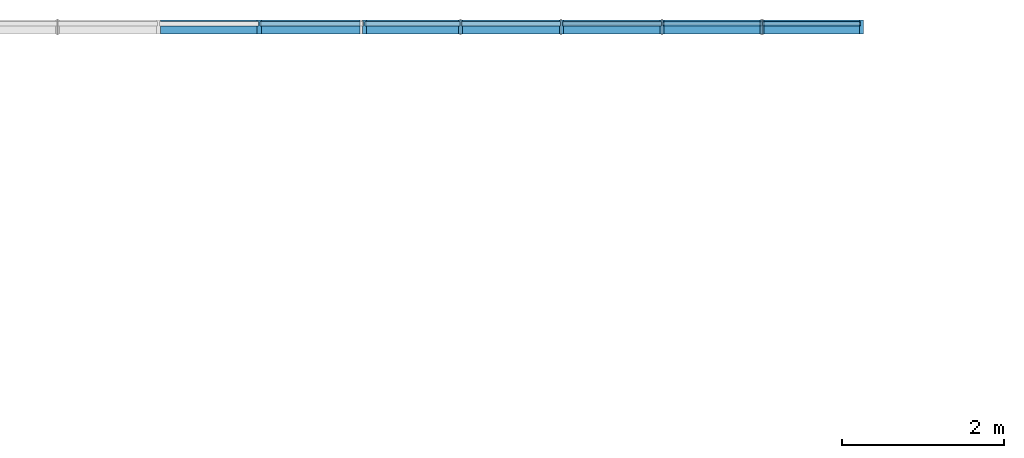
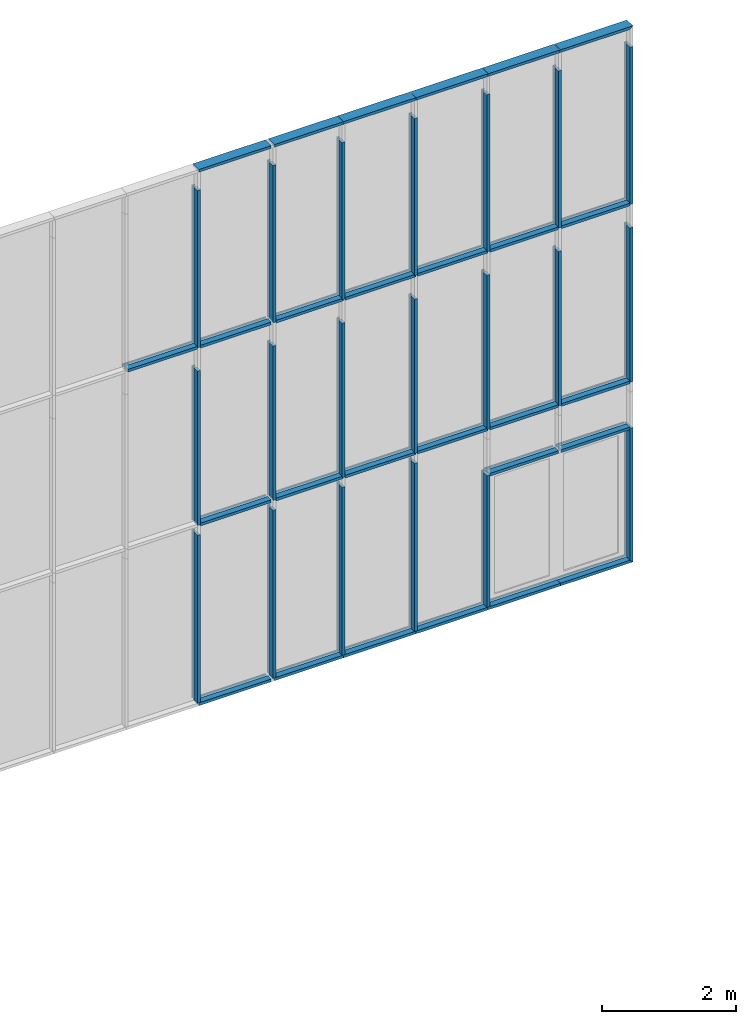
# One storey, part 11 of 387: 47 members, 1 element without a shape of its own.
"""IFC2X3 building model written with IfcOpenShell, lengths in millimetres."""

from ifc_helpers import new_model, entity, si_unit, converted_unit, derived_unit, money_unit, direction, frame, origin_with_axes, place, context, subcontext, project, spatial, polyline, outline, extrude, clip, halfspace, material, type_object, element, aggregate, save


model = new_model("IFC2X3")

# Units and contexts
model_context = context("Model", 3, precision=0.01, world=origin_with_axes(), true_north=direction((0.0, 1.0)))
body_context = subcontext(model_context, "Body", "Model", "MODEL_VIEW")
ifc_project = project(units=[si_unit("LENGTHUNIT", "METRE", prefix="MILLI"), si_unit("AREAUNIT", "SQUARE_METRE"), si_unit("VOLUMEUNIT", "CUBIC_METRE"), converted_unit("PLANEANGLEUNIT", "DEGREE", entity("IfcPlaneAngleMeasure", 0.0174532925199), si_unit("PLANEANGLEUNIT", "RADIAN"), dimensions=[0, 0, 0, 0, 0, 0, 0]), si_unit("SOLIDANGLEUNIT", "STERADIAN"), money_unit("EUR"), converted_unit("TIMEUNIT", "Year", entity("IfcTimeMeasure", 31556926.0), si_unit("TIMEUNIT", "SECOND"), dimensions=[0, 0, 1, 0, 0, 0, 0]), si_unit("MASSUNIT", "GRAM", prefix="KILO"), si_unit("THERMODYNAMICTEMPERATUREUNIT", "DEGREE_CELSIUS"), si_unit("LUMINOUSINTENSITYUNIT", "LUMEN"), si_unit("ENERGYUNIT", "JOULE", prefix="MEGA"), derived_unit("THERMALCONDUCTANCEUNIT", [(si_unit("POWERUNIT", "WATT"), 1), (si_unit("LENGTHUNIT", "METRE"), -1), (si_unit("THERMODYNAMICTEMPERATUREUNIT", "KELVIN"), -1)]), derived_unit("SPECIFICHEATCAPACITYUNIT", [(si_unit("ENERGYUNIT", "JOULE"), 1), (si_unit("MASSUNIT", "GRAM", prefix="KILO"), -1), (si_unit("THERMODYNAMICTEMPERATUREUNIT", "KELVIN"), -1)]), derived_unit("MASSDENSITYUNIT", [(si_unit("MASSUNIT", "GRAM", prefix="KILO"), 1), (si_unit("VOLUMEUNIT", "CUBIC_METRE"), -1)])], contexts=[model_context])

# Site, building, storey
site_placement = place(None, origin_with_axes())
site = spatial("IfcSite", under=ifc_project, at=site_placement, Name="Puškini 31, Narva", CompositionType="ELEMENT")
building_placement = place(site_placement, origin_with_axes())
building = spatial("IfcBuilding", under=site, at=building_placement, Name="Narva Riigigümnaasium", CompositionType="ELEMENT")
storey_placement = place(building_placement, frame((0.0, 0.0, 2640.0), z_axis=(0.0, 0.0, 1.0), x_axis=(1.0, 0.0, 0.0)))
storey = spatial("IfcBuildingStorey", under=building, at=storey_placement, Name="2.korrus +2.64", CompositionType="ELEMENT", Elevation=2640.0)

# Curtain wall, members
curtain_wall_type = type_object("IfcCurtainWallType", Name="Curtain Wall Type", PredefinedType="NOTDEFINED")
curtain_wall_placement = place(storey_placement, frame((50893.5555569, 254360.0, -2029.99998222), z_axis=(0.0, 0.0, 1.0), x_axis=(1.0, 0.0, 0.0)))
curtain_wall = element("IfcCurtainWall", 1, at=curtain_wall_placement, inside=storey, type_object=curtain_wall_type, Name="G-KLF-06")
ifc_material = material(Name="ET-04_Alumiinium")
member_type_1 = type_object("IfcMemberType", Name="Mullion Frame 50 x 176", PredefinedType="MULLION")
member_1_placement = place(curtain_wall_placement, frame((-3268.55557739, 0.0, 6526.66667876), z_axis=(0.0, 0.0, 1.0), x_axis=(1.0, 0.0, 0.0)))
member_1 = element("IfcMember", 2, at=member_1_placement, type_object=member_type_1, material=ifc_material, Name="klaasfassaadi raam", ObjectType="MULLION", context=body_context, shape_type="SweptSolid", body=[
    extrude(outline(polyline([(-10.0, -29.0), (-25.0, -29.0), (-25.0, -130.0), (25.0, -130.0), (25.0, -29.0), (10.0, -29.0), (10.0, 29.0), (25.0, 29.0), (25.0, 46.0), (-25.0, 46.0), (-25.0, 29.0), (-10.0, 29.0), (-10.0, -29.0)])), frame((0.0, 0.0, -1.08266284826e-06), z_axis=(0.0, 0.0, 1.0), x_axis=(1.0, 0.0, 0.0)), (0.0, 0.0, 1.0), 2863.33330005),
])
member_2_placement = place(curtain_wall_placement, frame((-3268.55555892, 0.0, 3288.33334081), z_axis=(0.0, 0.0, 1.0), x_axis=(1.0, 0.0, 0.0)))
member_2 = element("IfcMember", 3, at=member_2_placement, type_object=member_type_1, material=ifc_material, Name="klaasfassaadi raam", ObjectType="MULLION", context=body_context, shape_type="SweptSolid", body=[
    extrude(outline(polyline([(-10.0, -29.0), (-25.0, -29.0), (-25.0, -130.0), (25.0, -130.0), (25.0, -29.0), (10.0, -29.0), (10.0, 29.0), (25.0, 29.0), (25.0, 46.0), (-25.0, 46.0), (-25.0, 29.0), (-10.0, 29.0), (-10.0, -29.0)])), frame((0.0, 0.0, -9.10186148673e-07), z_axis=(0.0, 0.0, 1.0), x_axis=(1.0, 0.0, 0.0)), (0.0, 0.0, 1.0), 2811.66663707),
])
member_3_placement = place(curtain_wall_placement, frame((-3268.55555543, 0.0, 0.0), z_axis=(-3.20747446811e-09, 0.0, 1.0), x_axis=(1.0, 0.0, 3.20747446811e-09)))
member_3 = element("IfcMember", 4, at=member_3_placement, type_object=member_type_1, material=ifc_material, Name="klaasfassaadi raam", ObjectType="MULLION", context=body_context, shape_type="SweptSolid", body=[
    extrude(outline(polyline([(-10.0, -29.0), (-25.0, -29.0), (-25.0, -130.0), (25.0, -130.0), (25.0, -29.0), (10.0, -29.0), (10.0, 29.0), (25.0, 29.0), (25.0, 46.0), (-25.0, 46.0), (-25.0, 29.0), (-10.0, 29.0), (-10.0, -29.0)])), frame((0.0, 0.0, 49.9999998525), z_axis=(0.0, 0.0, 1.0), x_axis=(1.0, 0.0, -3.20747446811e-09)), (0.0, 0.0, 1.0), 3059.99997702),
])
member_4_placement = place(curtain_wall_placement, frame((-2076.88887256, 0.0, 0.0), z_axis=(0.0, 0.0, 1.0), x_axis=(1.0, 0.0, 0.0)))
member_4 = element("IfcMember", 5, at=member_4_placement, type_object=member_type_1, material=ifc_material, Name="klaasfassaadi raam", ObjectType="MULLION", context=body_context, shape_type="SweptSolid", body=[
    extrude(outline(polyline([(-10.0, -29.0), (-25.0, -29.0), (-25.0, -130.0), (25.0, -130.0), (25.0, -29.0), (10.0, -29.0), (10.0, 29.0), (25.0, 29.0), (25.0, 46.0), (-25.0, 46.0), (-25.0, 29.0), (-10.0, 29.0), (-10.0, -29.0)])), frame((0.0, 0.0, 49.9999998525), z_axis=(0.0, 0.0, 1.0), x_axis=(1.0, 0.0, 0.0)), (0.0, 0.0, 1.0), 3059.99997702),
])
member_5_placement = place(curtain_wall_placement, frame((-830.222212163, 0.0, 0.0), z_axis=(0.0, 0.0, 1.0), x_axis=(1.0, 0.0, 0.0)))
member_5 = element("IfcMember", 6, at=member_5_placement, type_object=member_type_1, material=ifc_material, Name="klaasfassaadi raam", ObjectType="MULLION", context=body_context, shape_type="SweptSolid", body=[
    extrude(outline(polyline([(-10.0, -29.0), (-25.0, -29.0), (-25.0, -130.0), (25.0, -130.0), (25.0, -29.0), (10.0, -29.0), (10.0, 29.0), (25.0, 29.0), (25.0, 46.0), (-25.0, 46.0), (-25.0, 29.0), (-10.0, 29.0), (-10.0, -29.0)])), frame((0.0, 0.0, 49.9999998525), z_axis=(0.0, 0.0, 1.0), x_axis=(1.0, 0.0, 0.0)), (0.0, 0.0, 1.0), 3059.99997702),
])
member_6_placement = place(curtain_wall_placement, frame((-4569.55555591, 0.0, 0.0), z_axis=(0.0, 0.0, 1.0), x_axis=(1.0, 0.0, 0.0)))
member_6 = element("IfcMember", 7, at=member_6_placement, type_object=member_type_1, material=ifc_material, Name="klaasfassaadi raam", ObjectType="MULLION", context=body_context, shape_type="SweptSolid", body=[
    extrude(outline(polyline([(-10.0, -29.0), (-25.0, -29.0), (-25.0, -130.0), (25.0, -130.0), (25.0, -29.0), (10.0, -29.0), (10.0, 29.0), (25.0, 29.0), (25.0, 46.0), (-25.0, 46.0), (-25.0, 29.0), (-10.0, 29.0), (-10.0, -29.0)])), frame((0.0, 0.0, 49.9999998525), z_axis=(0.0, 0.0, 1.0), x_axis=(1.0, 0.0, 0.0)), (0.0, 0.0, 1.0), 3059.99997702),
])
member_7_placement = place(curtain_wall_placement, frame((416.444428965, 0.0, 0.0), z_axis=(0.0, 0.0, 1.0), x_axis=(1.0, 0.0, 0.0)))
member_7 = element("IfcMember", 8, at=member_7_placement, type_object=member_type_1, material=ifc_material, Name="klaasfassaadi raam", ObjectType="MULLION", context=body_context, shape_type="SweptSolid", body=[
    extrude(outline(polyline([(-10.0, -29.0), (-25.0, -29.0), (-25.0, -130.0), (25.0, -130.0), (25.0, -29.0), (10.0, -29.0), (10.0, 29.0), (25.0, 29.0), (25.0, 46.0), (-25.0, 46.0), (-25.0, 29.0), (-10.0, 29.0), (-10.0, -29.0)])), frame((0.0, 0.0, 50.0), z_axis=(0.0, 0.0, 1.0), x_axis=(1.0, 0.0, 0.0)), (0.0, 0.0, 1.0), 2399.99999884),
])
member_8_placement = place(curtain_wall_placement, frame((-830.222216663, 0.0, 6526.66667876), z_axis=(0.0, 0.0, 1.0), x_axis=(1.0, 0.0, 0.0)))
member_8 = element("IfcMember", 9, at=member_8_placement, type_object=member_type_1, material=ifc_material, Name="klaasfassaadi raam", ObjectType="MULLION", context=body_context, shape_type="SweptSolid", body=[
    extrude(outline(polyline([(-10.0, -29.0), (-25.0, -29.0), (-25.0, -130.0), (25.0, -130.0), (25.0, -29.0), (10.0, -29.0), (10.0, 29.0), (25.0, 29.0), (25.0, 46.0), (-25.0, 46.0), (-25.0, 29.0), (-10.0, 29.0), (-10.0, -29.0)])), frame((0.0, 0.0, -1.08266284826e-06), z_axis=(0.0, 0.0, 1.0), x_axis=(1.0, 0.0, 0.0)), (0.0, 0.0, 1.0), 2863.33330005),
])
member_9_placement = place(curtain_wall_placement, frame((-830.222212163, 0.0, 3288.33334081), z_axis=(9.95296012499e-09, 0.0, 1.0), x_axis=(1.0, 0.0, -9.95296012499e-09)))
member_9 = element("IfcMember", 10, at=member_9_placement, type_object=member_type_1, material=ifc_material, Name="klaasfassaadi raam", ObjectType="MULLION", context=body_context, shape_type="SweptSolid", body=[
    extrude(outline(polyline([(-10.0, -29.0), (-25.0, -29.0), (-25.0, -130.0), (25.0, -130.0), (25.0, -29.0), (10.0, -29.0), (10.0, 29.0), (25.0, 29.0), (25.0, 46.0), (-25.0, 46.0), (-25.0, 29.0), (-10.0, 29.0), (-10.0, -29.0)])), frame((0.0, 0.0, -9.10186148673e-07), z_axis=(0.0, 0.0, 1.0), x_axis=(1.0, 0.0, 9.95296012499e-09)), (0.0, 0.0, 1.0), 2811.66663707),
])
member_10_placement = place(curtain_wall_placement, frame((-2076.88887256, 0.0, 3288.33334081), z_axis=(5.55415384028e-09, 0.0, 1.0), x_axis=(1.0, 0.0, -5.55415384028e-09)))
member_10 = element("IfcMember", 11, at=member_10_placement, type_object=member_type_1, material=ifc_material, Name="klaasfassaadi raam", ObjectType="MULLION", context=body_context, shape_type="SweptSolid", body=[
    extrude(outline(polyline([(-10.0, -29.0), (-25.0, -29.0), (-25.0, -130.0), (25.0, -130.0), (25.0, -29.0), (10.0, -29.0), (10.0, 29.0), (25.0, 29.0), (25.0, 46.0), (-25.0, 46.0), (-25.0, 29.0), (-10.0, 29.0), (-10.0, -29.0)])), frame((0.0, 0.0, -9.10186592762e-07), z_axis=(0.0, 0.0, 1.0), x_axis=(1.0, 0.0, 5.55415384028e-09)), (0.0, 0.0, 1.0), 2811.66663707),
])
member_11_placement = place(curtain_wall_placement, frame((-2076.88885694, 0.0, 6526.66667876), z_axis=(0.0, 0.0, 1.0), x_axis=(1.0, 0.0, 0.0)))
member_11 = element("IfcMember", 12, at=member_11_placement, type_object=member_type_1, material=ifc_material, Name="klaasfassaadi raam", ObjectType="MULLION", context=body_context, shape_type="SweptSolid", body=[
    extrude(outline(polyline([(-10.0, -29.0), (-25.0, -29.0), (-25.0, -130.0), (25.0, -130.0), (25.0, -29.0), (10.0, -29.0), (10.0, 29.0), (25.0, 29.0), (25.0, 46.0), (-25.0, 46.0), (-25.0, 29.0), (-10.0, 29.0), (-10.0, -29.0)])), frame((0.0, 0.0, -1.08266284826e-06), z_axis=(0.0, 0.0, 1.0), x_axis=(1.0, 0.0, 0.0)), (0.0, 0.0, 1.0), 2863.33330005),
])
member_12_placement = place(curtain_wall_placement, frame((-4569.55555591, 0.0, 6526.66667876), z_axis=(0.0, 0.0, 1.0), x_axis=(1.0, 0.0, 0.0)))
member_12 = element("IfcMember", 13, at=member_12_placement, type_object=member_type_1, material=ifc_material, Name="klaasfassaadi raam", ObjectType="MULLION", context=body_context, shape_type="SweptSolid", body=[
    extrude(outline(polyline([(-10.0, -29.0), (-25.0, -29.0), (-25.0, -130.0), (25.0, -130.0), (25.0, -29.0), (10.0, -29.0), (10.0, 29.0), (25.0, 29.0), (25.0, 46.0), (-25.0, 46.0), (-25.0, 29.0), (-10.0, 29.0), (-10.0, -29.0)])), frame((0.0, 0.0, -1.08266284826e-06), z_axis=(0.0, 0.0, 1.0), x_axis=(1.0, 0.0, 0.0)), (0.0, 0.0, 1.0), 2863.33330005),
])
member_13_placement = place(curtain_wall_placement, frame((-4569.55555591, 0.0, 3288.33334081), z_axis=(0.0, 0.0, 1.0), x_axis=(1.0, 0.0, 0.0)))
member_13 = element("IfcMember", 14, at=member_13_placement, type_object=member_type_1, material=ifc_material, Name="klaasfassaadi raam", ObjectType="MULLION", context=body_context, shape_type="SweptSolid", body=[
    extrude(outline(polyline([(-10.0, -29.0), (-25.0, -29.0), (-25.0, -130.0), (25.0, -130.0), (25.0, -29.0), (10.0, -29.0), (10.0, 29.0), (25.0, 29.0), (25.0, 46.0), (-25.0, 46.0), (-25.0, 29.0), (-10.0, 29.0), (-10.0, -29.0)])), frame((0.0, 0.0, -9.10186148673e-07), z_axis=(0.0, 0.0, 1.0), x_axis=(1.0, 0.0, 0.0)), (0.0, 0.0, 1.0), 2811.66663707),
])
member_14_placement = place(curtain_wall_placement, frame((416.444440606, 0.0, 3288.33334081), z_axis=(-6.04173442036e-09, 0.0, 1.0), x_axis=(1.0, 0.0, 6.04173442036e-09)))
member_14 = element("IfcMember", 15, at=member_14_placement, type_object=member_type_1, material=ifc_material, Name="klaasfassaadi raam", ObjectType="MULLION", context=body_context, shape_type="SweptSolid", body=[
    extrude(outline(polyline([(-10.0, -29.0), (-25.0, -29.0), (-25.0, -130.0), (25.0, -130.0), (25.0, -29.0), (10.0, -29.0), (10.0, 29.0), (25.0, 29.0), (25.0, 46.0), (-25.0, 46.0), (-25.0, 29.0), (-10.0, 29.0), (-10.0, -29.0)])), frame((0.0, 0.0, -9.10186592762e-07), z_axis=(0.0, 0.0, 1.0), x_axis=(1.0, 0.0, -6.04173442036e-09)), (0.0, 0.0, 1.0), 2811.66663707),
])
member_15_placement = place(curtain_wall_placement, frame((416.444423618, 0.0, 6526.66667873), z_axis=(0.0, 0.0, 1.0), x_axis=(1.0, 0.0, 0.0)))
member_15 = element("IfcMember", 16, at=member_15_placement, type_object=member_type_1, material=ifc_material, Name="klaasfassaadi raam", ObjectType="MULLION", context=body_context, shape_type="SweptSolid", body=[
    extrude(outline(polyline([(-10.0, -29.0), (-25.0, -29.0), (-25.0, -130.0), (25.0, -130.0), (25.0, -29.0), (10.0, -29.0), (10.0, 29.0), (25.0, 29.0), (25.0, 46.0), (-25.0, 46.0), (-25.0, 29.0), (-10.0, 29.0), (-10.0, -29.0)])), frame((0.0, 0.0, -1.08266284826e-06), z_axis=(0.0, 0.0, 1.0), x_axis=(1.0, 0.0, 0.0)), (0.0, 0.0, 1.0), 2863.33330005),
])
member_16_placement = place(curtain_wall_placement, frame((1648.9444345, 0.0, 3288.33333883), z_axis=(7.41968359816e-10, 0.0, 1.0), x_axis=(1.0, 0.0, -7.41968359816e-10)))
member_16 = element("IfcMember", 17, at=member_16_placement, type_object=member_type_1, material=ifc_material, Name="klaasfassaadi raam", ObjectType="MULLION", context=body_context, shape_type="SweptSolid", body=[
    extrude(outline(polyline([(-10.0, -29.0), (-25.0, -29.0), (-25.0, -130.0), (25.0, -130.0), (25.0, -29.0), (10.0, -29.0), (10.0, 29.0), (25.0, 29.0), (25.0, 46.0), (-25.0, 46.0), (-25.0, 29.0), (-10.0, 29.0), (-10.0, -29.0)])), frame((0.0, 0.0, -9.10186592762e-07), z_axis=(0.0, 0.0, 1.0), x_axis=(1.0, 0.0, 7.41968359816e-10)), (0.0, 0.0, 1.0), 2811.66663707),
])
member_17_placement = place(curtain_wall_placement, frame((1648.94443658, 0.0, 6526.66665832), z_axis=(0.0, 0.0, 1.0), x_axis=(1.0, 0.0, 0.0)))
member_17 = element("IfcMember", 18, at=member_17_placement, type_object=member_type_1, material=ifc_material, Name="klaasfassaadi raam", ObjectType="MULLION", context=body_context, shape_type="SweptSolid", body=[
    extrude(outline(polyline([(-10.0, -29.0), (-25.0, -29.0), (-25.0, -130.0), (25.0, -130.0), (25.0, -29.0), (10.0, -29.0), (10.0, 29.0), (25.0, 29.0), (25.0, 46.0), (-25.0, 46.0), (-25.0, 29.0), (-10.0, 29.0), (-10.0, -29.0)])), frame((0.0, 0.0, -1.08266284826e-06), z_axis=(0.0, 0.0, 1.0), x_axis=(1.0, 0.0, 0.0)), (0.0, 0.0, 1.0), 2863.33330005),
])
member_type_2 = type_object("IfcMemberType", Name="Boundary Frame 50 x 176", PredefinedType="MULLION")
member_18_placement = place(curtain_wall_placement, frame((2906.44444492, 0.0, 0.0), z_axis=(0.0, 0.0, 1.0), x_axis=(1.0, 0.0, 0.0)))
member_18 = element("IfcMember", 19, at=member_18_placement, type_object=member_type_2, material=ifc_material, Name="klaasfassaadi raam", ObjectType="MULLION", context=body_context, shape_type="Clipping", body=[
    clip(extrude(outline(polyline([(-35.0, -29.0), (-50.0, -29.0), (-50.0, -130.0), (0.0, -130.0), (0.0, 46.0), (-50.0, 46.0), (-50.0, 29.0), (-35.0, 29.0), (-35.0, -29.0)])), origin_with_axes(), (0.0, 0.0, 1.0), 2449.9999984), halfspace(frame((0.0, 0.0, 0.0), z_axis=(0.707106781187, 0.0, 0.707106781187), x_axis=(0.0, -1.0, 0.0)), True)),
])
member_19_placement = place(curtain_wall_placement, frame((-3323.55555578, 0.0, 0.0), z_axis=(-1.0, 0.0, 0.0), x_axis=(0.0, 0.0, 1.0)))
member_19 = element("IfcMember", 20, at=member_19_placement, type_object=member_type_2, material=ifc_material, Name="klaasfassaadi raam", ObjectType="MULLION", context=body_context, shape_type="SweptSolid", body=[
    extrude(outline(polyline([(-29.0, -35.0), (29.0, -35.0), (29.0, -50.0), (46.0, -50.0), (46.0, 0.0), (-130.0, 0.0), (-130.0, -50.0), (-29.0, -50.0), (-29.0, -35.0)])), frame((0.0, 0.0, 0.0), z_axis=(0.0, 0.0, 1.0), x_axis=(0.0, 1.0, 0.0)), (0.0, 0.0, 1.0), 1246.00000014),
])
member_20_placement = place(curtain_wall_placement, frame((-831.555555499, 0.0, 0.0), z_axis=(-1.0, 0.0, 0.0), x_axis=(0.0, 0.0, 1.0)))
member_20 = element("IfcMember", 21, at=member_20_placement, type_object=member_type_2, material=ifc_material, Name="klaasfassaadi raam", ObjectType="MULLION", context=body_context, shape_type="SweptSolid", body=[
    extrude(outline(polyline([(-29.0, -35.0), (29.0, -35.0), (29.0, -50.0), (46.0, -50.0), (46.0, 0.0), (-130.0, 0.0), (-130.0, -50.0), (-29.0, -50.0), (-29.0, -35.0)])), frame((0.0, 0.0, 0.0), z_axis=(0.0, 0.0, 1.0), x_axis=(0.0, 1.0, 0.0)), (0.0, 0.0, 1.0), 1245.33331706),
])
member_21_placement = place(curtain_wall_placement, frame((414.444444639, 0.0, 0.0), z_axis=(-1.0, 0.0, 0.0), x_axis=(0.0, 0.0, 1.0)))
member_21 = element("IfcMember", 22, at=member_21_placement, type_object=member_type_2, material=ifc_material, Name="klaasfassaadi raam", ObjectType="MULLION", context=body_context, shape_type="SweptSolid", body=[
    extrude(outline(polyline([(-29.0, -35.0), (29.0, -35.0), (29.0, -50.0), (46.0, -50.0), (46.0, 0.0), (-130.0, 0.0), (-130.0, -50.0), (-29.0, -50.0), (-29.0, -35.0)])), frame((0.0, 0.0, 0.0), z_axis=(0.0, 0.0, 1.0), x_axis=(0.0, 1.0, 0.0)), (0.0, 0.0, 1.0), 1244.6666568),
])
member_22_placement = place(curtain_wall_placement, frame((1660.44444478, 0.0, 0.0), z_axis=(-1.0, 0.0, 0.0), x_axis=(0.0, 0.0, 1.0)))
member_22 = element("IfcMember", 23, at=member_22_placement, type_object=member_type_2, material=ifc_material, Name="klaasfassaadi raam", ObjectType="MULLION", context=body_context, shape_type="SweptSolid", body=[
    extrude(outline(polyline([(-29.0, -35.0), (29.0, -35.0), (29.0, -50.0), (46.0, -50.0), (46.0, 0.0), (-130.0, 0.0), (-130.0, -50.0), (-29.0, -50.0), (-29.0, -35.0)])), frame((0.0, 0.0, 0.0), z_axis=(0.0, 0.0, 1.0), x_axis=(0.0, 1.0, 0.0)), (0.0, 0.0, 1.0), 1243.99999337),
])
member_23_placement = place(curtain_wall_placement, frame((2906.44444492, 0.0, 0.0), z_axis=(-1.0, 0.0, 0.0), x_axis=(0.0, 0.0, 1.0)))
member_23 = element("IfcMember", 24, at=member_23_placement, type_object=member_type_2, material=ifc_material, Name="klaasfassaadi raam", ObjectType="MULLION", context=body_context, shape_type="Clipping", body=[
    clip(extrude(outline(polyline([(-29.0, -35.0), (29.0, -35.0), (29.0, -50.0), (46.0, -50.0), (46.0, 0.0), (-130.0, 0.0), (-130.0, -50.0), (-29.0, -50.0), (-29.0, -35.0)])), frame((0.0, 0.0, 0.0), z_axis=(0.0, 0.0, 1.0), x_axis=(0.0, 1.0, 0.0)), (0.0, 0.0, 1.0), 1246.00000014), halfspace(frame((0.0, 0.0, 0.0), z_axis=(-0.707106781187, 0.0, 0.707106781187), x_axis=(0.0, -1.0, 0.0)), True)),
])
member_24_placement = place(curtain_wall_placement, frame((-2077.55555564, 0.0, 0.0), z_axis=(-1.0, 0.0, 0.0), x_axis=(0.0, 0.0, 1.0)))
member_24 = element("IfcMember", 25, at=member_24_placement, type_object=member_type_2, material=ifc_material, Name="klaasfassaadi raam", ObjectType="MULLION", context=body_context, shape_type="SweptSolid", body=[
    extrude(outline(polyline([(-29.0, -35.0), (29.0, -35.0), (29.0, -50.0), (46.0, -50.0), (46.0, 0.0), (-130.0, 0.0), (-130.0, -50.0), (-29.0, -50.0), (-29.0, -35.0)])), frame((0.0, 0.0, 0.0), z_axis=(0.0, 0.0, 1.0), x_axis=(0.0, 1.0, 0.0)), (0.0, 0.0, 1.0), 1190.9999998),
])
member_25_placement = place(curtain_wall_placement, frame((2906.44444492, 0.0, 6526.66665813), z_axis=(0.0, 0.0, 1.0), x_axis=(1.0, 0.0, 0.0)))
member_25 = element("IfcMember", 26, at=member_25_placement, type_object=member_type_2, material=ifc_material, Name="klaasfassaadi raam", ObjectType="MULLION", context=body_context, shape_type="SweptSolid", body=[
    extrude(outline(polyline([(-35.0, -29.0), (-50.0, -29.0), (-50.0, -130.0), (0.0, -130.0), (0.0, 46.0), (-50.0, 46.0), (-50.0, 29.0), (-35.0, 29.0), (-35.0, -29.0)])), origin_with_axes(), (0.0, 0.0, 1.0), 2863.33331775),
])
member_26_placement = place(curtain_wall_placement, frame((2906.44444492, 0.0, 3288.33333881), z_axis=(0.0, 0.0, 1.0), x_axis=(1.0, 0.0, 0.0)))
member_26 = element("IfcMember", 27, at=member_26_placement, type_object=member_type_2, material=ifc_material, Name="klaasfassaadi raam", ObjectType="MULLION", context=body_context, shape_type="SweptSolid", body=[
    extrude(outline(polyline([(-35.0, -29.0), (-50.0, -29.0), (-50.0, -130.0), (0.0, -130.0), (0.0, 46.0), (-50.0, 46.0), (-50.0, 29.0), (-35.0, 29.0), (-35.0, -29.0)])), origin_with_axes(), (0.0, 0.0, 1.0), 2811.66663707),
])
member_27_placement = place(curtain_wall_placement, frame((1660.44444478, 0.0, 9765.00000442), z_axis=(1.0, 0.0, 0.0), x_axis=(0.0, 0.0, -1.0)))
member_27 = element("IfcMember", 28, at=member_27_placement, type_object=member_type_2, material=ifc_material, Name="klaasfassaadi raam", ObjectType="MULLION", context=body_context, shape_type="Clipping", body=[
    clip(extrude(outline(polyline([(29.0, 35.0), (-29.0, 35.0), (-29.0, 50.0), (-46.0, 50.0), (-46.0, 0.0), (130.0, 0.0), (130.0, 50.0), (29.0, 50.0), (29.0, 35.0)])), frame((0.0, 0.0, 0.0), z_axis=(0.0, 0.0, 1.0), x_axis=(0.0, -1.0, 0.0)), (0.0, 0.0, 1.0), 1246.00000014), halfspace(frame((623.000000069, 0.0, 623.000000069), z_axis=(-0.707106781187, 0.0, -0.707106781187), x_axis=(0.0, 1.0, 0.0)), True)),
])
member_28_placement = place(curtain_wall_placement, frame((-830.222213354, 0.0, 9765.00000442), z_axis=(1.0, 0.0, 0.0), x_axis=(0.0, 0.0, -1.0)))
member_28 = element("IfcMember", 29, at=member_28_placement, type_object=member_type_2, material=ifc_material, Name="klaasfassaadi raam", ObjectType="MULLION", context=body_context, shape_type="SweptSolid", body=[
    extrude(outline(polyline([(29.0, 35.0), (-29.0, 35.0), (-29.0, 50.0), (-46.0, 50.0), (-46.0, 0.0), (130.0, 0.0), (130.0, 50.0), (29.0, 50.0), (29.0, 35.0)])), frame((0.0, 0.0, 0.0), z_axis=(0.0, 0.0, 1.0), x_axis=(0.0, -1.0, 0.0)), (0.0, 0.0, 1.0), 1244.6666568),
])
member_29_placement = place(curtain_wall_placement, frame((-2076.88887515, 0.0, 9765.00000442), z_axis=(1.0, 0.0, 0.0), x_axis=(0.0, 0.0, -1.0)))
member_29 = element("IfcMember", 30, at=member_29_placement, type_object=member_type_2, material=ifc_material, Name="klaasfassaadi raam", ObjectType="MULLION", context=body_context, shape_type="SweptSolid", body=[
    extrude(outline(polyline([(29.0, 35.0), (-29.0, 35.0), (-29.0, 50.0), (-46.0, 50.0), (-46.0, 0.0), (130.0, 0.0), (130.0, 50.0), (29.0, 50.0), (29.0, 35.0)])), frame((0.0, 0.0, 0.0), z_axis=(0.0, 0.0, 1.0), x_axis=(0.0, -1.0, 0.0)), (0.0, 0.0, 1.0), 1245.33331706),
])
member_30_placement = place(curtain_wall_placement, frame((-3268.55554971, 0.0, 9765.00000442), z_axis=(1.0, 0.0, 0.0), x_axis=(0.0, 0.0, -1.0)))
member_30 = element("IfcMember", 31, at=member_30_placement, type_object=member_type_2, material=ifc_material, Name="klaasfassaadi raam", ObjectType="MULLION", context=body_context, shape_type="SweptSolid", body=[
    extrude(outline(polyline([(29.0, 35.0), (-29.0, 35.0), (-29.0, 50.0), (-46.0, 50.0), (-46.0, 0.0), (130.0, 0.0), (130.0, 50.0), (29.0, 50.0), (29.0, 35.0)])), frame((0.0, 0.0, 0.0), z_axis=(0.0, 0.0, 1.0), x_axis=(0.0, -1.0, 0.0)), (0.0, 0.0, 1.0), 1190.9999998),
])
member_31_placement = place(curtain_wall_placement, frame((-4569.55555591, 0.0, 9765.00000442), z_axis=(1.0, 0.0, 0.0), x_axis=(0.0, 0.0, -1.0)))
member_31 = element("IfcMember", 32, at=member_31_placement, type_object=member_type_2, material=ifc_material, Name="klaasfassaadi raam", ObjectType="MULLION", context=body_context, shape_type="SweptSolid", body=[
    extrude(outline(polyline([(29.0, 35.0), (-29.0, 35.0), (-29.0, 50.0), (-46.0, 50.0), (-46.0, 0.0), (130.0, 0.0), (130.0, 50.0), (29.0, 50.0), (29.0, 35.0)])), frame((0.0, 0.0, 0.0), z_axis=(0.0, 0.0, 1.0), x_axis=(0.0, -1.0, 0.0)), (0.0, 0.0, 1.0), 1246.00000014),
])
member_32_placement = place(curtain_wall_placement, frame((416.444423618, 0.0, 9765.00000442), z_axis=(1.0, 0.0, 0.0), x_axis=(0.0, 0.0, -1.0)))
member_32 = element("IfcMember", 33, at=member_32_placement, type_object=member_type_2, material=ifc_material, Name="klaasfassaadi raam", ObjectType="MULLION", context=body_context, shape_type="SweptSolid", body=[
    extrude(outline(polyline([(29.0, 35.0), (-29.0, 35.0), (-29.0, 50.0), (-46.0, 50.0), (-46.0, 0.0), (130.0, 0.0), (130.0, 50.0), (29.0, 50.0), (29.0, 35.0)])), frame((0.0, 0.0, 0.0), z_axis=(0.0, 0.0, 1.0), x_axis=(0.0, -1.0, 0.0)), (0.0, 0.0, 1.0), 1232.50001952),
])
member_type_3 = type_object("IfcMemberType", Name="Transom Frame 50 x 176", PredefinedType="MULLION")
member_33_placement = place(curtain_wall_placement, frame((-2077.55555564, 0.0, 6526.66667876), z_axis=(-1.0, 0.0, 0.0), x_axis=(0.0, 0.0, 1.0)))
member_33 = element("IfcMember", 34, at=member_33_placement, type_object=member_type_3, material=ifc_material, Name="klaasfassaadi raam", ObjectType="MULLION", context=body_context, shape_type="SweptSolid", body=[
    extrude(outline(polyline([(-29.0, 10.0), (-29.0, 25.0), (-130.0, 25.0), (-130.0, -25.0), (-29.0, -25.0), (-29.0, -10.0), (29.0, -10.0), (29.0, -25.0), (46.0, -25.0), (46.0, 25.0), (29.0, 25.0), (29.0, 10.0), (-29.0, 10.0)])), frame((0.0, 0.0, 0.0), z_axis=(0.0, 0.0, 1.0), x_axis=(0.0, 1.0, 0.0)), (0.0, 0.0, 1.0), 1166.00002176),
])
member_34_placement = place(curtain_wall_placement, frame((-2077.55555564, 0.0, 3288.33334081), z_axis=(-1.0, 0.0, 0.0), x_axis=(0.0, 0.0, 1.0)))
member_34 = element("IfcMember", 35, at=member_34_placement, type_object=member_type_3, material=ifc_material, Name="klaasfassaadi raam", ObjectType="MULLION", context=body_context, shape_type="SweptSolid", body=[
    extrude(outline(polyline([(-29.0, 10.0), (-29.0, 25.0), (-130.0, 25.0), (-130.0, -25.0), (-29.0, -25.0), (-29.0, -10.0), (29.0, -10.0), (29.0, -25.0), (46.0, -25.0), (46.0, 25.0), (29.0, 25.0), (29.0, 10.0), (-29.0, 10.0)])), frame((0.0, 0.0, 0.0), z_axis=(0.0, 0.0, 1.0), x_axis=(0.0, 1.0, 0.0)), (0.0, 0.0, 1.0), 1166.00002176),
])
member_35_placement = place(curtain_wall_placement, frame((414.444444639, 0.0, 3288.33334081), z_axis=(-1.0, 0.0, 0.0), x_axis=(0.0, 0.0, 1.0)))
member_35 = element("IfcMember", 36, at=member_35_placement, type_object=member_type_3, material=ifc_material, Name="klaasfassaadi raam", ObjectType="MULLION", context=body_context, shape_type="SweptSolid", body=[
    extrude(outline(polyline([(-29.0, 10.0), (-29.0, 25.0), (-130.0, 25.0), (-130.0, -25.0), (-29.0, -25.0), (-29.0, -10.0), (29.0, -10.0), (29.0, -25.0), (46.0, -25.0), (46.0, 25.0), (29.0, 25.0), (29.0, 10.0), (-29.0, 10.0)])), frame((0.0, 0.0, -4.00959265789e-08), z_axis=(0.0, 0.0, 1.0), x_axis=(0.0, 1.0, 0.0)), (0.0, 0.0, 1.0), 1219.66665684),
])
member_36_placement = place(curtain_wall_placement, frame((-831.555555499, 0.0, 3288.33334081), z_axis=(-1.0, 0.0, 0.0), x_axis=(0.0, 0.0, 1.0)))
member_36 = element("IfcMember", 37, at=member_36_placement, type_object=member_type_3, material=ifc_material, Name="klaasfassaadi raam", ObjectType="MULLION", context=body_context, shape_type="SweptSolid", body=[
    extrude(outline(polyline([(-29.0, 10.0), (-29.0, 25.0), (-130.0, 25.0), (-130.0, -25.0), (-29.0, -25.0), (-29.0, -10.0), (29.0, -10.0), (29.0, -25.0), (46.0, -25.0), (46.0, 25.0), (29.0, 25.0), (29.0, 10.0), (-29.0, 10.0)])), frame((0.0, 0.0, 0.0), z_axis=(0.0, 0.0, 1.0), x_axis=(0.0, 1.0, 0.0)), (0.0, 0.0, 1.0), 1220.33331706),
])
member_37_placement = place(curtain_wall_placement, frame((414.444444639, 0.0, 6526.66667876), z_axis=(-1.0, 0.0, 0.0), x_axis=(0.0, 0.0, 1.0)))
member_37 = element("IfcMember", 38, at=member_37_placement, type_object=member_type_3, material=ifc_material, Name="klaasfassaadi raam", ObjectType="MULLION", context=body_context, shape_type="SweptSolid", body=[
    extrude(outline(polyline([(-29.0, 10.0), (-29.0, 25.0), (-130.0, 25.0), (-130.0, -25.0), (-29.0, -25.0), (-29.0, -10.0), (29.0, -10.0), (29.0, -25.0), (46.0, -25.0), (46.0, 25.0), (29.0, 25.0), (29.0, 10.0), (-29.0, 10.0)])), frame((0.0, 0.0, -4.00959265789e-08), z_axis=(0.0, 0.0, 1.0), x_axis=(0.0, 1.0, 0.0)), (0.0, 0.0, 1.0), 1219.66665684),
])
member_38_placement = place(curtain_wall_placement, frame((-831.555555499, 0.0, 6526.66667876), z_axis=(-1.0, 0.0, 0.0), x_axis=(0.0, 0.0, 1.0)))
member_38 = element("IfcMember", 39, at=member_38_placement, type_object=member_type_3, material=ifc_material, Name="klaasfassaadi raam", ObjectType="MULLION", context=body_context, shape_type="SweptSolid", body=[
    extrude(outline(polyline([(-29.0, 10.0), (-29.0, 25.0), (-130.0, 25.0), (-130.0, -25.0), (-29.0, -25.0), (-29.0, -10.0), (29.0, -10.0), (29.0, -25.0), (46.0, -25.0), (46.0, 25.0), (29.0, 25.0), (29.0, 10.0), (-29.0, 10.0)])), frame((0.0, 0.0, 0.0), z_axis=(0.0, 0.0, 1.0), x_axis=(0.0, 1.0, 0.0)), (0.0, 0.0, 1.0), 1220.33331706),
])
member_39_placement = place(curtain_wall_placement, frame((-3323.55555578, 0.0, 6526.66667876), z_axis=(-1.0, 0.0, 0.0), x_axis=(0.0, 0.0, 1.0)))
member_39 = element("IfcMember", 40, at=member_39_placement, type_object=member_type_3, material=ifc_material, Name="klaasfassaadi raam", ObjectType="MULLION", context=body_context, shape_type="SweptSolid", body=[
    extrude(outline(polyline([(-29.0, 10.0), (-29.0, 25.0), (-130.0, 25.0), (-130.0, -25.0), (-29.0, -25.0), (-29.0, -10.0), (29.0, -10.0), (29.0, -25.0), (46.0, -25.0), (46.0, 25.0), (29.0, 25.0), (29.0, 10.0), (-29.0, 10.0)])), frame((0.0, 0.0, 0.0), z_axis=(0.0, 0.0, 1.0), x_axis=(0.0, 1.0, 0.0)), (0.0, 0.0, 1.0), 1221.00000014),
])
member_40_placement = place(curtain_wall_placement, frame((-3323.55555578, 0.0, 3288.33334081), z_axis=(-1.0, 0.0, 0.0), x_axis=(0.0, 0.0, 1.0)))
member_40 = element("IfcMember", 41, at=member_40_placement, type_object=member_type_3, material=ifc_material, Name="klaasfassaadi raam", ObjectType="MULLION", context=body_context, shape_type="SweptSolid", body=[
    extrude(outline(polyline([(-29.0, 10.0), (-29.0, 25.0), (-130.0, 25.0), (-130.0, -25.0), (-29.0, -25.0), (-29.0, -10.0), (29.0, -10.0), (29.0, -25.0), (46.0, -25.0), (46.0, 25.0), (29.0, 25.0), (29.0, 10.0), (-29.0, 10.0)])), frame((0.0, 0.0, 0.0), z_axis=(0.0, 0.0, 1.0), x_axis=(0.0, 1.0, 0.0)), (0.0, 0.0, 1.0), 1221.00000014),
])
member_41_placement = place(curtain_wall_placement, frame((-4569.55555591, 0.0, 6526.66667876), z_axis=(-1.0, 0.0, 0.0), x_axis=(0.0, 0.0, 1.0)))
member_41 = element("IfcMember", 42, at=member_41_placement, type_object=member_type_3, material=ifc_material, Name="klaasfassaadi raam", ObjectType="MULLION", context=body_context, shape_type="SweptSolid", body=[
    extrude(outline(polyline([(-29.0, 10.0), (-29.0, 25.0), (-130.0, 25.0), (-130.0, -25.0), (-29.0, -25.0), (-29.0, -10.0), (29.0, -10.0), (29.0, -25.0), (46.0, -25.0), (46.0, 25.0), (29.0, 25.0), (29.0, 10.0), (-29.0, 10.0)])), frame((0.0, 0.0, 25.0), z_axis=(0.0, 0.0, 1.0), x_axis=(0.0, 1.0, 0.0)), (0.0, 0.0, 1.0), 1196.00000014),
])
member_42_placement = place(curtain_wall_placement, frame((1648.94442705, 0.0, 2449.9999984), z_axis=(-1.0, 0.0, 0.0), x_axis=(0.0, 0.0, 1.0)))
member_42 = element("IfcMember", 43, at=member_42_placement, type_object=member_type_3, material=ifc_material, Name="klaasfassaadi raam", ObjectType="MULLION", context=body_context, shape_type="SweptSolid", body=[
    extrude(outline(polyline([(-29.0, 10.0), (-29.0, 25.0), (-130.0, 25.0), (-130.0, -25.0), (-29.0, -25.0), (-29.0, -10.0), (29.0, -10.0), (29.0, -25.0), (46.0, -25.0), (46.0, 25.0), (29.0, 25.0), (29.0, 10.0), (-29.0, 10.0)])), frame((0.0, 0.0, 24.9999994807), z_axis=(0.0, 0.0, 1.0), x_axis=(0.0, 1.0, 0.0)), (0.0, 0.0, 1.0), 1182.4999986),
])
member_43_placement = place(curtain_wall_placement, frame((1648.94443658, 0.0, 6526.66665832), z_axis=(-1.0, 0.0, 1.65575610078e-08), x_axis=(1.65575610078e-08, 0.0, 1.0)))
member_43 = element("IfcMember", 44, at=member_43_placement, type_object=member_type_3, material=ifc_material, Name="klaasfassaadi raam", ObjectType="MULLION", context=body_context, shape_type="SweptSolid", body=[
    extrude(outline(polyline([(-29.0, 10.0), (-29.0, 25.0), (-130.0, 25.0), (-130.0, -25.0), (-29.0, -25.0), (-29.0, -10.0), (29.0, -10.0), (29.0, -25.0), (46.0, -25.0), (46.0, 25.0), (29.0, 25.0), (29.0, 10.0), (-29.0, 10.0)])), frame((0.0, 0.0, 24.9999994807), z_axis=(0.0, 0.0, 1.0), x_axis=(0.0, 1.0, 0.0)), (0.0, 0.0, 1.0), 1182.4999986),
])
member_44_placement = place(curtain_wall_placement, frame((1648.9444345, 0.0, 3288.33333883), z_axis=(-1.0, 0.0, 1.60397474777e-09), x_axis=(1.60397474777e-09, 0.0, 1.0)))
member_44 = element("IfcMember", 45, at=member_44_placement, type_object=member_type_3, material=ifc_material, Name="klaasfassaadi raam", ObjectType="MULLION", context=body_context, shape_type="SweptSolid", body=[
    extrude(outline(polyline([(-29.0, 10.0), (-29.0, 25.0), (-130.0, 25.0), (-130.0, -25.0), (-29.0, -25.0), (-29.0, -10.0), (29.0, -10.0), (29.0, -25.0), (46.0, -25.0), (46.0, 25.0), (29.0, 25.0), (29.0, 10.0), (-29.0, 10.0)])), frame((0.0, 0.0, 24.9999994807), z_axis=(0.0, 0.0, 1.0), x_axis=(0.0, 1.0, 0.0)), (0.0, 0.0, 1.0), 1182.4999986),
])
member_45_placement = place(curtain_wall_placement, frame((2906.44444492, 0.0, 2449.9999984), z_axis=(-1.0, 0.0, 0.0), x_axis=(0.0, 0.0, 1.0)))
member_45 = element("IfcMember", 46, at=member_45_placement, type_object=member_type_3, material=ifc_material, Name="klaasfassaadi raam", ObjectType="MULLION", context=body_context, shape_type="SweptSolid", body=[
    extrude(outline(polyline([(-29.0, 10.0), (-29.0, 25.0), (-130.0, 25.0), (-130.0, -25.0), (-29.0, -25.0), (-29.0, -10.0), (29.0, -10.0), (29.0, -25.0), (46.0, -25.0), (46.0, 25.0), (29.0, 25.0), (29.0, 10.0), (-29.0, 10.0)])), frame((0.0, 0.0, 50.0), z_axis=(0.0, 0.0, 1.0), x_axis=(0.0, 1.0, 0.0)), (0.0, 0.0, 1.0), 1182.50001131),
])
member_46_placement = place(curtain_wall_placement, frame((2906.44444492, 0.0, 3288.33333881), z_axis=(-1.0, 0.0, 0.0), x_axis=(0.0, 0.0, 1.0)))
member_46 = element("IfcMember", 47, at=member_46_placement, type_object=member_type_3, material=ifc_material, Name="klaasfassaadi raam", ObjectType="MULLION", context=body_context, shape_type="SweptSolid", body=[
    extrude(outline(polyline([(-29.0, 10.0), (-29.0, 25.0), (-130.0, 25.0), (-130.0, -25.0), (-29.0, -25.0), (-29.0, -10.0), (29.0, -10.0), (29.0, -25.0), (46.0, -25.0), (46.0, 25.0), (29.0, 25.0), (29.0, 10.0), (-29.0, 10.0)])), frame((0.0, 0.0, 50.0), z_axis=(0.0, 0.0, 1.0), x_axis=(0.0, 1.0, 0.0)), (0.0, 0.0, 1.0), 1182.50001131),
])
member_47_placement = place(curtain_wall_placement, frame((2906.44444492, 0.0, 6526.66665813), z_axis=(-1.0, 0.0, 0.0), x_axis=(0.0, 0.0, 1.0)))
member_47 = element("IfcMember", 48, at=member_47_placement, type_object=member_type_3, material=ifc_material, Name="klaasfassaadi raam", ObjectType="MULLION", context=body_context, shape_type="SweptSolid", body=[
    extrude(outline(polyline([(-29.0, 10.0), (-29.0, 25.0), (-130.0, 25.0), (-130.0, -25.0), (-29.0, -25.0), (-29.0, -10.0), (29.0, -10.0), (29.0, -25.0), (46.0, -25.0), (46.0, 25.0), (29.0, 25.0), (29.0, 10.0), (-29.0, 10.0)])), frame((0.0, 0.0, 50.0), z_axis=(0.0, 0.0, 1.0), x_axis=(0.0, 1.0, 0.0)), (0.0, 0.0, 1.0), 1182.50001131),
])
aggregate(curtain_wall, [member_18, member_19, member_20, member_21, member_22, member_23, member_1, member_33, member_2, member_34, member_3, member_24, member_35, member_36, member_37, member_38, member_39, member_25, member_26, member_27, member_28, member_29, member_30, member_31, member_40, member_41, member_4, member_5, member_6, member_7, member_42, member_8, member_9, member_10, member_11, member_12, member_13, member_43, member_44, member_14, member_15, member_16, member_17, member_32, member_45, member_46, member_47])

save(model, "model.ifc")
